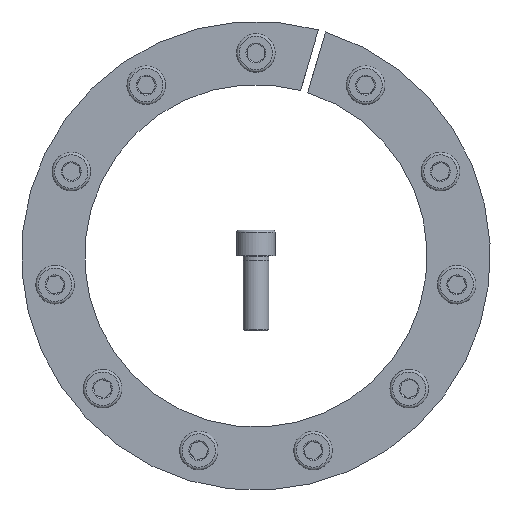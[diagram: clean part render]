
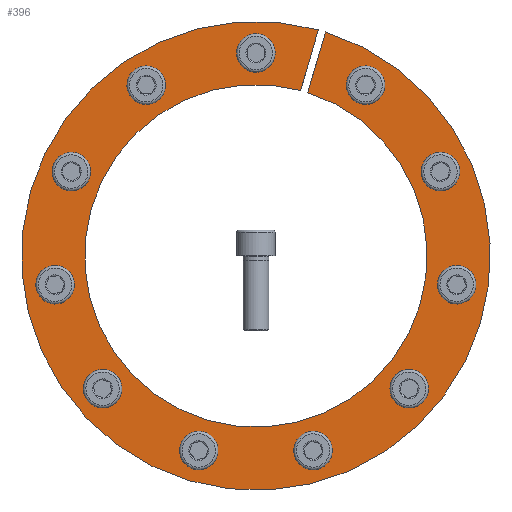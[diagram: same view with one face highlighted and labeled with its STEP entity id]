
A CAD part, front view. The second image highlights one B-rep face of the part: STEP entity #396.
In plain terms, the highlighted planar face has unit normal (0, -1, 0).
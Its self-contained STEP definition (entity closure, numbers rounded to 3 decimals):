
#396 = ADVANCED_FACE( '', ( #614, #615, #616, #617, #618, #619, #620, #621, #622, #623, #624, #625 ), #626, .F. );
#614 = FACE_BOUND( '', #808, .T. );
#615 = FACE_BOUND( '', #809, .T. );
#616 = FACE_BOUND( '', #810, .T. );
#617 = FACE_BOUND( '', #811, .T. );
#618 = FACE_BOUND( '', #812, .T. );
#619 = FACE_BOUND( '', #813, .T. );
#620 = FACE_BOUND( '', #814, .T. );
#621 = FACE_BOUND( '', #815, .T. );
#622 = FACE_BOUND( '', #816, .T. );
#623 = FACE_BOUND( '', #817, .T. );
#624 = FACE_BOUND( '', #818, .T. );
#625 = FACE_OUTER_BOUND( '', #819, .T. );
#626 = PLANE( '', #820 );
#808 = EDGE_LOOP( '', ( #1041 ) );
#809 = EDGE_LOOP( '', ( #1042 ) );
#810 = EDGE_LOOP( '', ( #1043 ) );
#811 = EDGE_LOOP( '', ( #1044 ) );
#812 = EDGE_LOOP( '', ( #1045 ) );
#813 = EDGE_LOOP( '', ( #1046 ) );
#814 = EDGE_LOOP( '', ( #1047 ) );
#815 = EDGE_LOOP( '', ( #1048 ) );
#816 = EDGE_LOOP( '', ( #1049 ) );
#817 = EDGE_LOOP( '', ( #1050 ) );
#818 = EDGE_LOOP( '', ( #1051 ) );
#819 = EDGE_LOOP( '', ( #1052, #1053, #1054, #1055 ) );
#820 = AXIS2_PLACEMENT_3D( '', #1056, #1057, #1058 );
#1041 = ORIENTED_EDGE( '', *, *, #1425, .T. );
#1042 = ORIENTED_EDGE( '', *, *, #1426, .T. );
#1043 = ORIENTED_EDGE( '', *, *, #1427, .T. );
#1044 = ORIENTED_EDGE( '', *, *, #1428, .T. );
#1045 = ORIENTED_EDGE( '', *, *, #1429, .T. );
#1046 = ORIENTED_EDGE( '', *, *, #1430, .T. );
#1047 = ORIENTED_EDGE( '', *, *, #1431, .T. );
#1048 = ORIENTED_EDGE( '', *, *, #1432, .T. );
#1049 = ORIENTED_EDGE( '', *, *, #1433, .T. );
#1050 = ORIENTED_EDGE( '', *, *, #1434, .T. );
#1051 = ORIENTED_EDGE( '', *, *, #1435, .T. );
#1052 = ORIENTED_EDGE( '', *, *, #1436, .T. );
#1053 = ORIENTED_EDGE( '', *, *, #1437, .T. );
#1054 = ORIENTED_EDGE( '', *, *, #1417, .T. );
#1055 = ORIENTED_EDGE( '', *, *, #1438, .F. );
#1056 = CARTESIAN_POINT( '', ( 0., 0., 109.5 ) );
#1057 = DIRECTION( '', ( 0., 1., 0. ) );
#1058 = DIRECTION( '', ( 0., 0., 1. ) );
#1417 = EDGE_CURVE( '', #1571, #1569, #1572, .T. );
#1425 = EDGE_CURVE( '', #1585, #1585, #1586, .T. );
#1426 = EDGE_CURVE( '', #1587, #1587, #1588, .T. );
#1427 = EDGE_CURVE( '', #1589, #1589, #1590, .T. );
#1428 = EDGE_CURVE( '', #1591, #1591, #1592, .T. );
#1429 = EDGE_CURVE( '', #1593, #1593, #1594, .T. );
#1430 = EDGE_CURVE( '', #1595, #1595, #1596, .T. );
#1431 = EDGE_CURVE( '', #1597, #1597, #1598, .T. );
#1432 = EDGE_CURVE( '', #1599, #1599, #1600, .T. );
#1433 = EDGE_CURVE( '', #1601, #1601, #1602, .T. );
#1434 = EDGE_CURVE( '', #1603, #1603, #1604, .T. );
#1435 = EDGE_CURVE( '', #1605, #1605, #1606, .T. );
#1436 = EDGE_CURVE( '', #1607, #1608, #1609, .T. );
#1437 = EDGE_CURVE( '', #1608, #1571, #1610, .T. );
#1438 = EDGE_CURVE( '', #1607, #1569, #1611, .T. );
#1569 = VERTEX_POINT( '', #1709 );
#1571 = VERTEX_POINT( '', #1712 );
#1572 = LINE( '', #1713, #1714 );
#1585 = VERTEX_POINT( '', #1738 );
#1586 = CIRCLE( '', #1739, 6. );
#1587 = VERTEX_POINT( '', #1740 );
#1588 = CIRCLE( '', #1741, 6. );
#1589 = VERTEX_POINT( '', #1742 );
#1590 = CIRCLE( '', #1743, 6. );
#1591 = VERTEX_POINT( '', #1744 );
#1592 = CIRCLE( '', #1745, 6. );
#1593 = VERTEX_POINT( '', #1746 );
#1594 = CIRCLE( '', #1747, 6. );
#1595 = VERTEX_POINT( '', #1748 );
#1596 = CIRCLE( '', #1749, 6. );
#1597 = VERTEX_POINT( '', #1750 );
#1598 = CIRCLE( '', #1751, 6. );
#1599 = VERTEX_POINT( '', #1752 );
#1600 = CIRCLE( '', #1753, 6. );
#1601 = VERTEX_POINT( '', #1754 );
#1602 = CIRCLE( '', #1755, 6. );
#1603 = VERTEX_POINT( '', #1756 );
#1604 = CIRCLE( '', #1757, 6. );
#1605 = VERTEX_POINT( '', #1758 );
#1606 = CIRCLE( '', #1759, 6. );
#1607 = VERTEX_POINT( '', #1760 );
#1608 = VERTEX_POINT( '', #1761 );
#1609 = LINE( '', #1762, #1763 );
#1610 = CIRCLE( '', #1764, 109.5 );
#1611 = CIRCLE( '', #1765, 80. );
#1709 = CARTESIAN_POINT( '', ( 24.212, 0., 76.248 ) );
#1712 = CARTESIAN_POINT( '', ( 32.525, 0., 104.558 ) );
#1713 = CARTESIAN_POINT( '', ( 32.529, 0., 104.571 ) );
#1714 = VECTOR( '', #1884, 1000. );
#1738 = CARTESIAN_POINT( '', ( -46.178, 0., 82.953 ) );
#1739 = AXIS2_PLACEMENT_3D( '', #1890, #1891, #1892 );
#1740 = CARTESIAN_POINT( '', ( -94.639, 0., -7.545 ) );
#1741 = AXIS2_PLACEMENT_3D( '', #1893, #1894, #1895 );
#1742 = CARTESIAN_POINT( '', ( -32.451, 0., -89.222 ) );
#1743 = AXIS2_PLACEMENT_3D( '', #1896, #1897, #1898 );
#1744 = CARTESIAN_POINT( '', ( 67.678, 0., -66.583 ) );
#1745 = AXIS2_PLACEMENT_3D( '', #1899, #1900, #1901 );
#1746 = CARTESIAN_POINT( '', ( 88.68, 0., 33.903 ) );
#1747 = AXIS2_PLACEMENT_3D( '', #1902, #1903, #1904 );
#1748 = CARTESIAN_POINT( '', ( 6., 0., 94.75 ) );
#1749 = AXIS2_PLACEMENT_3D( '', #1905, #1906, #1907 );
#1750 = CARTESIAN_POINT( '', ( 56.273, 0., 76.465 ) );
#1751 = AXIS2_PLACEMENT_3D( '', #1908, #1909, #1910 );
#1752 = CARTESIAN_POINT( '', ( 92.932, 0., -19.423 ) );
#1753 = AXIS2_PLACEMENT_3D( '', #1911, #1912, #1913 );
#1754 = CARTESIAN_POINT( '', ( 20.937, 0., -92.602 ) );
#1755 = AXIS2_PLACEMENT_3D( '', #1914, #1915, #1916 );
#1756 = CARTESIAN_POINT( '', ( -75.536, 0., -57.514 ) );
#1757 = AXIS2_PLACEMENT_3D( '', #1917, #1918, #1919 );
#1758 = CARTESIAN_POINT( '', ( -83.695, 0., 44.818 ) );
#1759 = AXIS2_PLACEMENT_3D( '', #1920, #1921, #1922 );
#1760 = CARTESIAN_POINT( '', ( 20.854, 0., 77.234 ) );
#1761 = CARTESIAN_POINT( '', ( 29.167, 0., 105.544 ) );
#1762 = CARTESIAN_POINT( '', ( 20.854, 0., 77.234 ) );
#1763 = VECTOR( '', #1923, 1000. );
#1764 = AXIS2_PLACEMENT_3D( '', #1924, #1925, #1926 );
#1765 = AXIS2_PLACEMENT_3D( '', #1927, #1928, #1929 );
#1884 = DIRECTION( '', ( -0.282, 0., -0.959 ) );
#1890 = CARTESIAN_POINT( '', ( -51.226, 0., 79.709 ) );
#1891 = DIRECTION( '', ( 0., 1., 0. ) );
#1892 = DIRECTION( '', ( 0.841, 0., 0.541 ) );
#1893 = CARTESIAN_POINT( '', ( -93.786, 0., -13.484 ) );
#1894 = DIRECTION( '', ( 0., 1., 0. ) );
#1895 = DIRECTION( '', ( -0.142, 0., 0.99 ) );
#1896 = CARTESIAN_POINT( '', ( -26.694, 0., -90.912 ) );
#1897 = DIRECTION( '', ( 0., 1., 0. ) );
#1898 = DIRECTION( '', ( -0.959, 0., 0.282 ) );
#1899 = CARTESIAN_POINT( '', ( 71.607, 0., -62.048 ) );
#1900 = DIRECTION( '', ( 0., 1., 0. ) );
#1901 = DIRECTION( '', ( -0.655, 0., -0.756 ) );
#1902 = CARTESIAN_POINT( '', ( 86.188, 0., 39.361 ) );
#1903 = DIRECTION( '', ( 0., 1., 0. ) );
#1904 = DIRECTION( '', ( 0.415, 0., -0.91 ) );
#1905 = CARTESIAN_POINT( '', ( 0., 0., 94.75 ) );
#1906 = DIRECTION( '', ( 0., 1., 0. ) );
#1907 = DIRECTION( '', ( 1., 0., 0. ) );
#1908 = CARTESIAN_POINT( '', ( 51.226, 0., 79.709 ) );
#1909 = DIRECTION( '', ( 0., 1., 0. ) );
#1910 = DIRECTION( '', ( 0.841, 0., -0.541 ) );
#1911 = CARTESIAN_POINT( '', ( 93.786, 0., -13.484 ) );
#1912 = DIRECTION( '', ( 0., 1., 0. ) );
#1913 = DIRECTION( '', ( -0.142, 0., -0.99 ) );
#1914 = CARTESIAN_POINT( '', ( 26.694, 0., -90.912 ) );
#1915 = DIRECTION( '', ( 0., 1., 0. ) );
#1916 = DIRECTION( '', ( -0.959, 0., -0.282 ) );
#1917 = CARTESIAN_POINT( '', ( -71.607, 0., -62.048 ) );
#1918 = DIRECTION( '', ( 0., 1., 0. ) );
#1919 = DIRECTION( '', ( -0.655, 0., 0.756 ) );
#1920 = CARTESIAN_POINT( '', ( -86.188, 0., 39.361 ) );
#1921 = DIRECTION( '', ( 0., 1., 0. ) );
#1922 = DIRECTION( '', ( 0.415, 0., 0.91 ) );
#1923 = DIRECTION( '', ( 0.282, 0., 0.959 ) );
#1924 = CARTESIAN_POINT( '', ( 0., 0., 0. ) );
#1925 = DIRECTION( '', ( 0., -1., 0. ) );
#1926 = DIRECTION( '', ( 0., 0., -1. ) );
#1927 = CARTESIAN_POINT( '', ( 0., 0., 0. ) );
#1928 = DIRECTION( '', ( 0., -1., 0. ) );
#1929 = DIRECTION( '', ( 0., 0., -1. ) );
